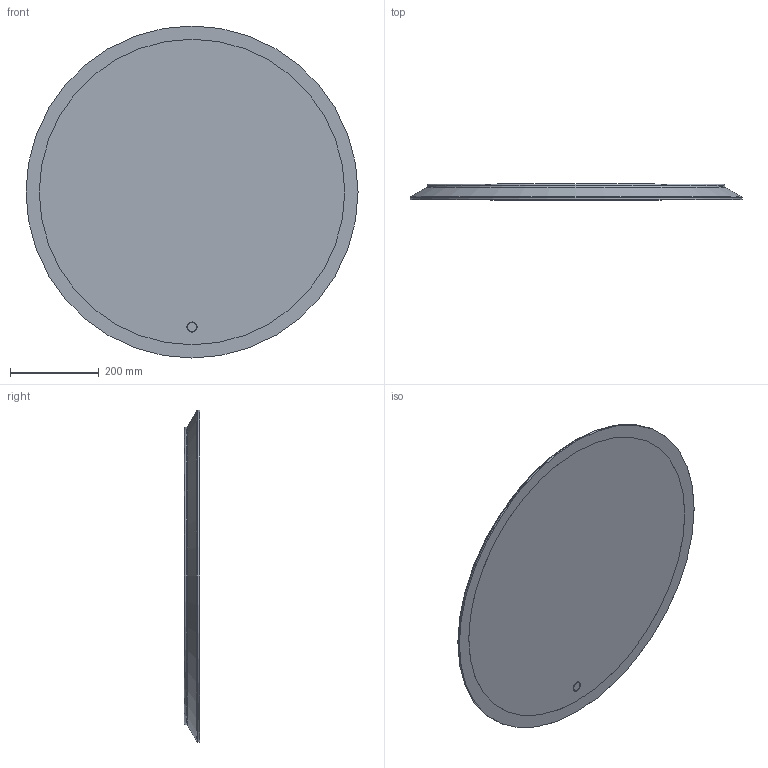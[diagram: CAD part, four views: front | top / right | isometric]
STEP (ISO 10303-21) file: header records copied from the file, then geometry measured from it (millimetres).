
FILE_DESCRIPTION(/* description */ (''),/* implementation_level */ '2;1');
FILE_NAME(/* name */ 'C:\Planerdaten\Export PLA\502.798.00.1\stp\502798.stp',/* time_stamp */ '2022-12-02T15:07:47+01:00',/* author */ ('JANAN'),/* organization */ (''),/* preprocessor_version */ 'ST-DEVELOPER v18.1',/* originating_system */ 'Autodesk Inventor 2021',/* authorisation */ '');
FILE_SCHEMA (('AUTOMOTIVE_DESIGN { 1 0 10303 214 3 1 1 }'));
Length unit declared in the file: millimetre
Products named in the file (1): tmp720C.tmp
Bounding box: 750 x 35.1 x 750 mm (x, y, z)
Volume: 13887503.3 mm3; surface area: 1936238.5 mm2
Topology: 4 solids, 4 shells, 25 faces, 55 edges, 41 vertices
Faces by surface type: plane 11, cylinder 10, torus 3, cone 1
Full cylindrical faces by diameter (mm): 8 x3, 20 x1, 23 x1, 672 x1, 690 x1, 748 x1, 750 x2
Entity records: 826 total; most frequent: DIRECTION 151, CARTESIAN_POINT 122, ORIENTED_EDGE 110, AXIS2_PLACEMENT_3D 70, EDGE_CURVE 55, CIRCLE 44, VERTEX_POINT 41, EDGE_LOOP 32
